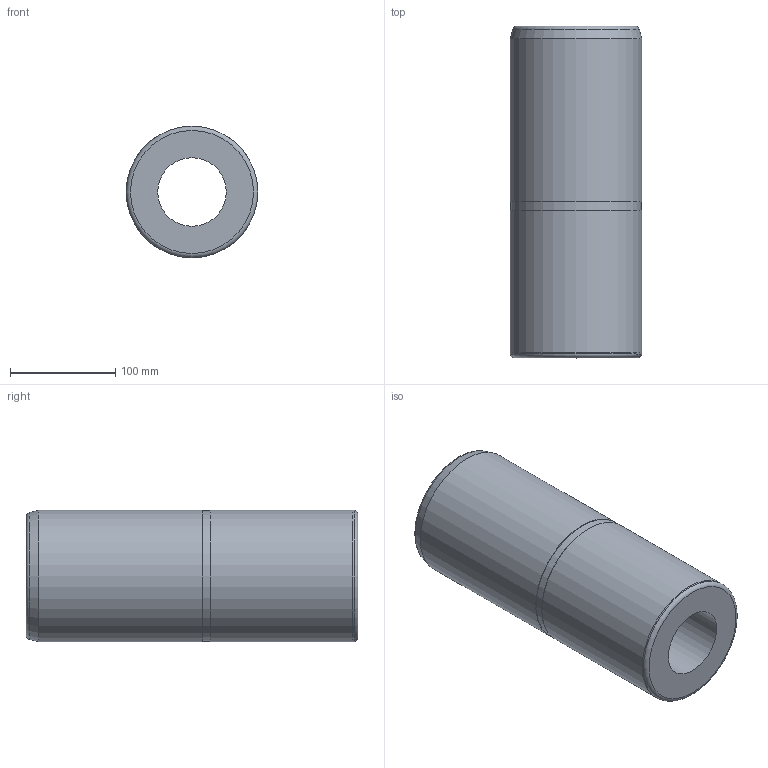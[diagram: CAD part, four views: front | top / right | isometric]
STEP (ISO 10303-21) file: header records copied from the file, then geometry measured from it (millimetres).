
FILE_DESCRIPTION( ( 'STEP AP203' ), '1' );
FILE_NAME( 'D:/Cuma/26 04 2010/D15/D15_125315.step', '2003-02-25T15:09:15', ( ' ' ), ( ' ' ), 'XStep 1.0', ' ', ' ' );
FILE_SCHEMA( ( 'CONFIG_CONTROL_DESIGN' ) );
Length unit declared in the file: metre
Products named in the file (1): 1
Bounding box: 125 x 315 x 125 mm (x, y, z)
Volume: 2803615 mm3; surface area: 206180.4 mm2
Topology: 1 solids, 1 shells, 18 faces, 37 edges, 23 vertices
Faces by surface type: cylinder 8, cone 4, plane 4, torus 2
Full cylindrical faces by diameter (mm): 10.25 x4, 65 x1, 124 x1, 125 x2
Entity records: 421 total; most frequent: DIRECTION 74, CARTESIAN_POINT 57, AXIS2_PLACEMENT_3D 37, EDGE_LOOP 36, ORIENTED_EDGE 36, FACE_OUTER_BOUND 28, VERTEX_POINT 20, ADVANCED_FACE 18
